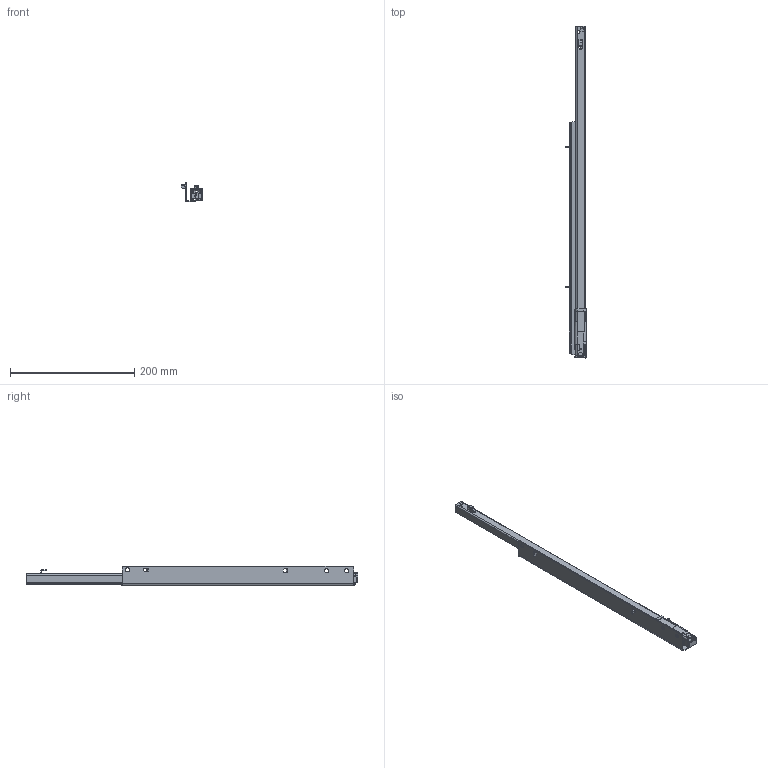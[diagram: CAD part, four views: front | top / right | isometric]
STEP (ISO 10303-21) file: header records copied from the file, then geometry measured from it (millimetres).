
FILE_DESCRIPTION (( 'STEP AP203' ), '1' );
FILE_NAME ('BBP OA Levý èásteèný výsuv 540 mm 2017_308743_3D.STEP', '2020-11-27T11:46:22', ( '' ), ( '' ), 'SwSTEP 2.0', 'SolidWorks 2019', '' );
FILE_SCHEMA (( 'CONFIG_CONTROL_DESIGN' ));
Length unit declared in the file: millimetre
Products named in the file (4): 1 020 049 002 002_mir^BBP OA Levý èásteèný výsuv 540 mm 2017_308743_3D; 1 020 049 001 013_mir^BBP OA Levý èásteèný výsuv 540 mm 2017_308743_3D; Multifunktionsteil-TA-links^BBP OA Levý èásteèný výsuv 540 mm 2017_308743_3D; BBP OA Levý èásteèný výsuv 540 mm 2017_308743_3D
Assembly tree (3 placements, depth 2):
  BBP OA Levý èásteèný výsuv 540 mm 2017_308743_3D
    1 020 049 002 002_mir^BBP OA Levý èásteèný výsuv 540 mm 2017_308743_3D
    Multifunktionsteil-TA-links^BBP OA Levý èásteèný výsuv 540 mm 2017_308743_3D
    1 020 049 001 013_mir^BBP OA Levý èásteèný výsuv 540 mm 2017_308743_3D
Bounding box: 34.23 x 533.49 x 31.9 mm (x, y, z)
Volume: 76015.3 mm3; surface area: 105997.2 mm2
Topology: 3 solids, 3 shells, 529 faces, 1486 edges, 947 vertices
Faces by surface type: plane 312, cylinder 173, bspline 23, sphere 12, torus 5, cone 4
Entity records: 18224 total; most frequent: CARTESIAN_POINT 4507, ORIENTED_EDGE 2962, DIRECTION 2573, EDGE_CURVE 1481, LINE 1013, VECTOR 1013, VERTEX_POINT 945, AXIS2_PLACEMENT_3D 780
